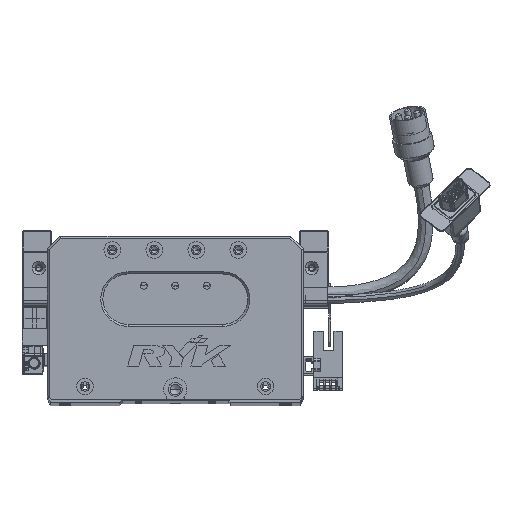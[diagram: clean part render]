
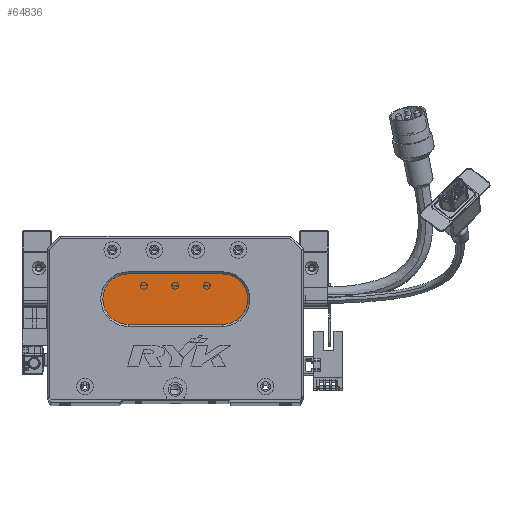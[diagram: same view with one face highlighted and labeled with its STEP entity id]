
A CAD part, top view. The second image highlights one B-rep face of the part: STEP entity #64836.
In plain terms, the highlighted planar face has unit normal (0, 0, 1) as drawn and (0, 0, -1) by its records, which use the part's own axes.
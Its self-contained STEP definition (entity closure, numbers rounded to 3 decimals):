
#3165 = ORIENTED_EDGE ( 'NONE', *, *, #42806, .T. ) ;
#4812 = CIRCLE ( 'NONE', #68190, 12. ) ;
#8271 = DIRECTION ( 'NONE',  ( 0., 0., -1. ) ) ;
#14577 = LINE ( 'NONE', #55281, #47848 ) ;
#15487 = DIRECTION ( 'NONE',  ( -1., 0., 0. ) ) ;
#17223 = DIRECTION ( 'NONE',  ( -1., 0., 0. ) ) ;
#18692 = DIRECTION ( 'NONE',  ( 0., 0., -1. ) ) ;
#25043 = AXIS2_PLACEMENT_3D ( 'NONE', #28146, #41129, #15487 ) ;
#28146 = CARTESIAN_POINT ( 'NONE',  ( 83.5, 48., 13. ) ) ;
#29984 = EDGE_CURVE ( 'NONE', #68014, #67302, #35807, .T. ) ;
#31526 = CARTESIAN_POINT ( 'NONE',  ( 83.5, 60., 13. ) ) ;
#31547 = VERTEX_POINT ( 'NONE', #49189 ) ;
#31640 = CARTESIAN_POINT ( 'NONE',  ( 38.5, 48., 13. ) ) ;
#32932 = VERTEX_POINT ( 'NONE', #75050 ) ;
#33071 = AXIS2_PLACEMENT_3D ( 'NONE', #34333, #66788, #54349 ) ;
#34333 = CARTESIAN_POINT ( 'NONE',  ( 83.5, 48., 13. ) ) ;
#35394 = ORIENTED_EDGE ( 'NONE', *, *, #50127, .T. ) ;
#35807 = CIRCLE ( 'NONE', #67056, 12. ) ;
#38019 = VERTEX_POINT ( 'NONE', #69735 ) ;
#38623 = PLANE ( 'NONE',  #25043 ) ;
#41129 = DIRECTION ( 'NONE',  ( 0., 0., -1. ) ) ;
#42725 = VECTOR ( 'NONE', #57469, 1000. ) ;
#42806 = EDGE_CURVE ( 'NONE', #38019, #68014, #14577, .T. ) ;
#46833 = CARTESIAN_POINT ( 'NONE',  ( 38.5, 36., 13. ) ) ;
#47848 = VECTOR ( 'NONE', #17223, 1000. ) ;
#49189 = CARTESIAN_POINT ( 'NONE',  ( 83.5, 60., 13. ) ) ;
#50127 = EDGE_CURVE ( 'NONE', #31547, #38019, #83300, .T. ) ;
#50822 = LINE ( 'NONE', #31526, #42725 ) ;
#51347 = EDGE_CURVE ( 'NONE', #32932, #31547, #50822, .T. ) ;
#53749 = ORIENTED_EDGE ( 'NONE', *, *, #29984, .T. ) ;
#53753 = EDGE_LOOP ( 'NONE', ( #35394, #3165, #53749, #56939, #72102 ) ) ;
#53763 = FACE_OUTER_BOUND ( 'NONE', #53753, .T. ) ;
#53934 = CARTESIAN_POINT ( 'NONE',  ( 38.5, 48., 13. ) ) ;
#54349 = DIRECTION ( 'NONE',  ( -1., 0., 0. ) ) ;
#55281 = CARTESIAN_POINT ( 'NONE',  ( 83.5, 36., 13. ) ) ;
#56939 = ORIENTED_EDGE ( 'NONE', *, *, #72901, .T. ) ;
#57469 = DIRECTION ( 'NONE',  ( 1., 0., 0. ) ) ;
#64836 = ADVANCED_FACE ( 'NONE', ( #53763 ), #38623, .T. ) ;
#64984 = CARTESIAN_POINT ( 'NONE',  ( 26.5, 48., 13. ) ) ;
#66788 = DIRECTION ( 'NONE',  ( 0., 0., -1. ) ) ;
#67056 = AXIS2_PLACEMENT_3D ( 'NONE', #31640, #18692, #76865 ) ;
#67302 = VERTEX_POINT ( 'NONE', #64984 ) ;
#68014 = VERTEX_POINT ( 'NONE', #46833 ) ;
#68190 = AXIS2_PLACEMENT_3D ( 'NONE', #53934, #8271, #78544 ) ;
#69735 = CARTESIAN_POINT ( 'NONE',  ( 83.5, 36., 13. ) ) ;
#72102 = ORIENTED_EDGE ( 'NONE', *, *, #51347, .T. ) ;
#72901 = EDGE_CURVE ( 'NONE', #67302, #32932, #4812, .T. ) ;
#75050 = CARTESIAN_POINT ( 'NONE',  ( 38.5, 60., 13. ) ) ;
#76865 = DIRECTION ( 'NONE',  ( -1., 0., 0. ) ) ;
#78544 = DIRECTION ( 'NONE',  ( -1., 0., 0. ) ) ;
#83300 = CIRCLE ( 'NONE', #33071, 12. ) ;
